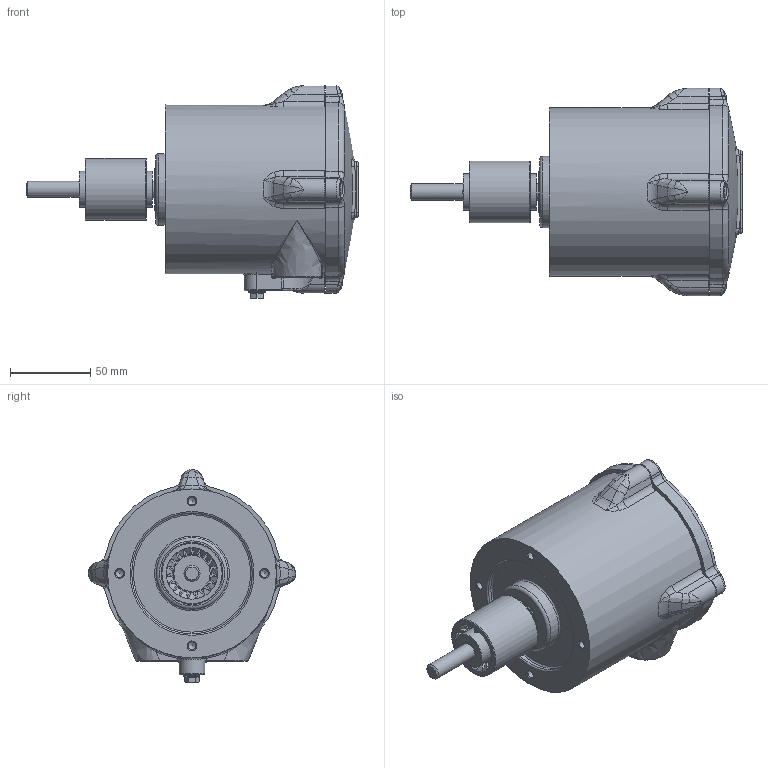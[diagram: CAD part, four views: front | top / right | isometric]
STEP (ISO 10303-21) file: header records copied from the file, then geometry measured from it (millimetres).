
FILE_DESCRIPTION(/* description */ (''),/* implementation_level */ '2;1');
FILE_NAME(/* name */ '\\Srvgest\camlogic\TEMP\Kulwant S\2_STEP\2_STEP\SMD20\SMD-20.stp',/* time_stamp */ '2021-06-15T11:03:28+02:00',/* author */ ('kulwant.singh'),/* organization */ (''),/* preprocessor_version */ 'ST-DEVELOPER v18.1',/* originating_system */ 'Autodesk Inventor 2022',/* authorisation */ '');
FILE_SCHEMA (('AUTOMOTIVE_DESIGN { 1 0 10303 214 3 1 1 }'));
Length unit declared in the file: millimetre
Products named in the file (1): SMD-20
Bounding box: 206.4 x 129 x 132.18 mm (x, y, z)
Volume: 1074320.9 mm3; surface area: 82964.3 mm2
Topology: 1 solids, 1 shells, 1026 faces, 2831 edges, 1816 vertices
Faces by surface type: cylinder 567, plane 210, bspline 100, cone 79, torus 57, sphere 13
Full cylindrical faces by diameter (mm): 4 x1, 4.6 x4, 4.917 x4, 5 x5, 5.5 x4, 6.88 x1, 10 x2, 10.5 x4, 18.631 x2, 22.5 x2, 23.5 x1, 26 x1, 38.5 x1, 44.5 x1, 75 x1, 105 x1
Entity records: 38636 total; most frequent: CARTESIAN_POINT 11617, ORIENTED_EDGE 5606, DIRECTION 5523, EDGE_CURVE 2803, AXIS2_PLACEMENT_3D 2300, VERTEX_POINT 1816, CIRCLE 1344, EDGE_LOOP 1071
